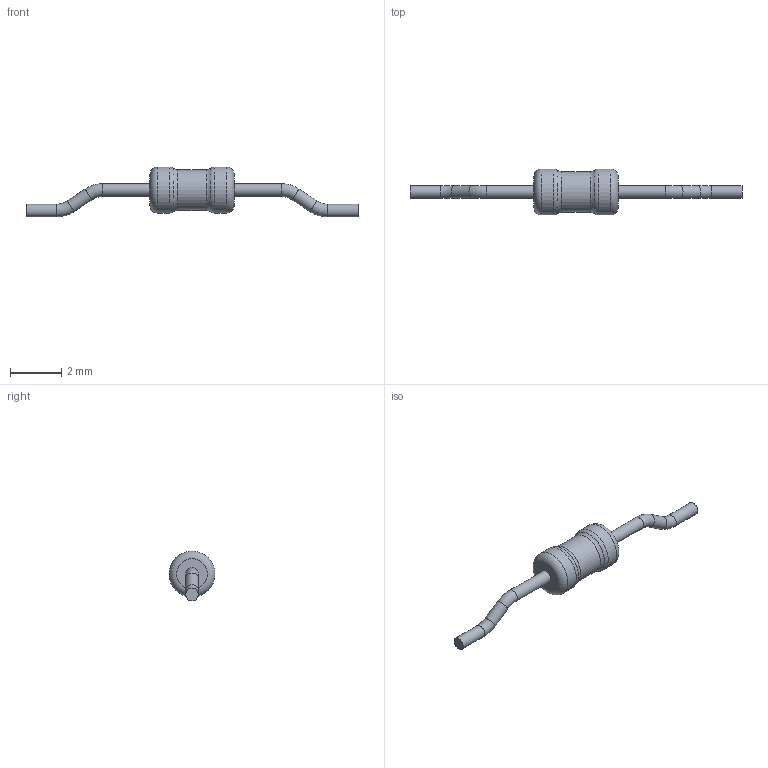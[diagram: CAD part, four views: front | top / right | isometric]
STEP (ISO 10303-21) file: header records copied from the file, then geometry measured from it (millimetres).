
FILE_DESCRIPTION(('STEP AP203'), '1');
FILE_NAME('R1-72-0.25M(3)', '', ('UNSPECIFIED'), ('UNSPECIFIED'), 'ASCON STEP Converter 1.6', 'ASCON Math Kernel', '');
FILE_SCHEMA(('CONFIG_CONTROL_DESIGN'));
Length unit declared in the file: millimetre
Bounding box: 13 x 1.8 x 1.95 mm (x, y, z)
Volume: 9.4 mm3; surface area: 37.4 mm2
Topology: 1 solids, 1 shells, 23 faces, 41 edges, 22 vertices
Faces by surface type: torus 10, cylinder 9, plane 4
Full cylindrical faces by diameter (mm): 0.5 x6, 1.6 x1, 1.8 x2
Entity records: 682 total; most frequent: DIRECTION 92, CARTESIAN_POINT 68, AXIS2_PLACEMENT_3D 46, EDGE_LOOP 44, ORIENTED_EDGE 44, FACE_OUTER_BOUND 38, COLOUR_RGB 24, FILL_AREA_STYLE_COLOUR 24
